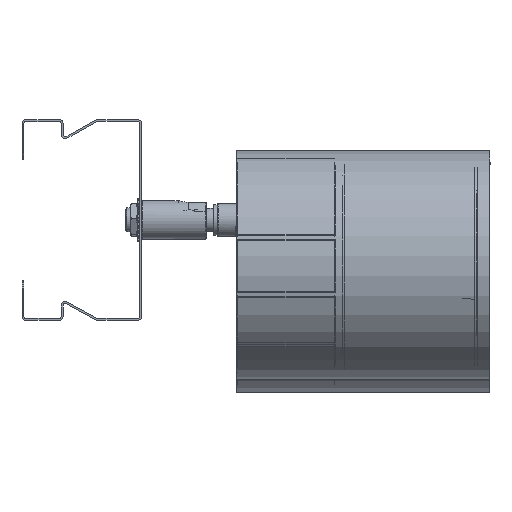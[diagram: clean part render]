
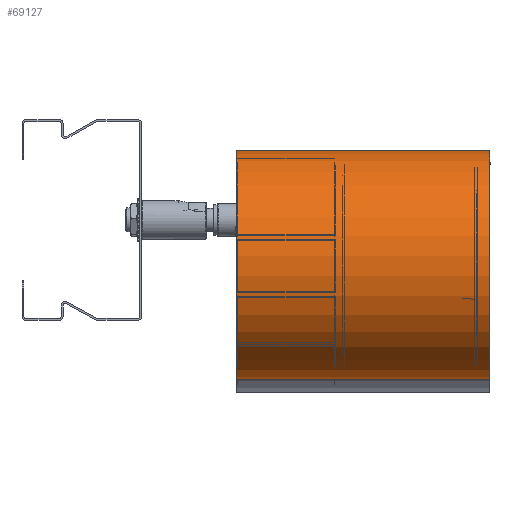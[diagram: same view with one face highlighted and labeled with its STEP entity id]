
A CAD part, left-side view. The second image highlights one B-rep face of the part: STEP entity #69127.
In plain terms, the highlighted cylindrical face has radius 48.1 mm (diameter 96.2 mm), a full revolution.
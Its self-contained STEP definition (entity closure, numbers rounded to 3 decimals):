
#3023=CIRCLE('',#73412,48.1);
#3899=CIRCLE('',#74947,48.1);
#8495=LINE('',#114706,#12091);
#12091=VECTOR('',#87322,48.1);
#16199=FACE_OUTER_BOUND('',#20812,.T.);
#20812=EDGE_LOOP('',(#49380,#49381,#49382,#49383));
#27519=VERTEX_POINT('',#109709);
#28307=VERTEX_POINT('',#114705);
#34399=EDGE_CURVE('',#27519,#27519,#3023,.T.);
#35861=EDGE_CURVE('',#27519,#28307,#8495,.T.);
#35862=EDGE_CURVE('',#28307,#28307,#3899,.T.);
#49380=ORIENTED_EDGE('',*,*,#34399,.F.);
#49381=ORIENTED_EDGE('',*,*,#35861,.T.);
#49382=ORIENTED_EDGE('',*,*,#35862,.F.);
#49383=ORIENTED_EDGE('',*,*,#35861,.F.);
#66813=CYLINDRICAL_SURFACE('',#74946,48.1);
#69127=ADVANCED_FACE('',(#16199),#66813,.T.);
#73412=AXIS2_PLACEMENT_3D('',#109710,#83770,#83771);
#74946=AXIS2_PLACEMENT_3D('',#114704,#87320,#87321);
#74947=AXIS2_PLACEMENT_3D('',#114707,#87323,#87324);
#83770=DIRECTION('center_axis',(0.,1.,0.));
#83771=DIRECTION('ref_axis',(-0.702,0.,-0.712));
#87320=DIRECTION('center_axis',(0.,1.,0.));
#87321=DIRECTION('ref_axis',(-0.702,0.,-0.712));
#87322=DIRECTION('',(0.,-1.,0.));
#87323=DIRECTION('center_axis',(0.,-1.,0.));
#87324=DIRECTION('ref_axis',(-0.702,0.,-0.712));
#109709=CARTESIAN_POINT('',(-227.,-39.8,582.288));
#109710=CARTESIAN_POINT('Origin',(-260.778,-39.8,548.044));
#114704=CARTESIAN_POINT('Origin',(-260.778,-145.8,548.044));
#114705=CARTESIAN_POINT('',(-227.,-145.8,582.288));
#114706=CARTESIAN_POINT('',(-227.,-145.8,582.288));
#114707=CARTESIAN_POINT('Origin',(-260.778,-145.8,548.044));
